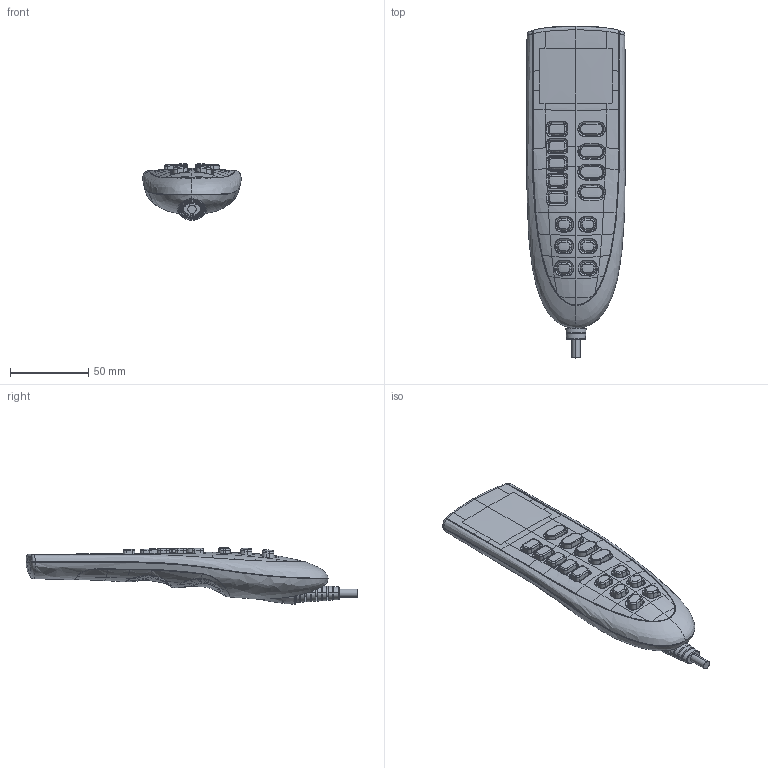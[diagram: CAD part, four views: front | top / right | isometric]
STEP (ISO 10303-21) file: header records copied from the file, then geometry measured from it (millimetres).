
FILE_DESCRIPTION (( 'STEP AP203' ), '1' );
FILE_NAME ('3D_TH13.STEP', '2017-07-07T04:25:44', ( '' ), ( '' ), 'SwSTEP 2.0', 'SolidWorks 2015', '' );
FILE_SCHEMA (( 'CONFIG_CONTROL_DESIGN' ));
Products named in the file (1): 3D_TH13
Bounding box: 63.01 x 212.49 x 36.14 mm (x, y, z)
Surface area: 111359.8 mm2 (no closed solid volume)
Topology: 0 solids, 22 shells, 2020 faces, 5672 edges, 3685 vertices
Faces by surface type: bspline 1655, plane 205, cone 131, cylinder 29
Entity records: 245749 total; most frequent: CARTESIAN_POINT 208952, ORIENTED_EDGE 11342, EDGE_CURVE 5672, B_SPLINE_CURVE_WITH_KNOTS 5061, VERTEX_POINT 3685, EDGE_LOOP 2040, ADVANCED_FACE 2020, FACE_OUTER_BOUND 2020
